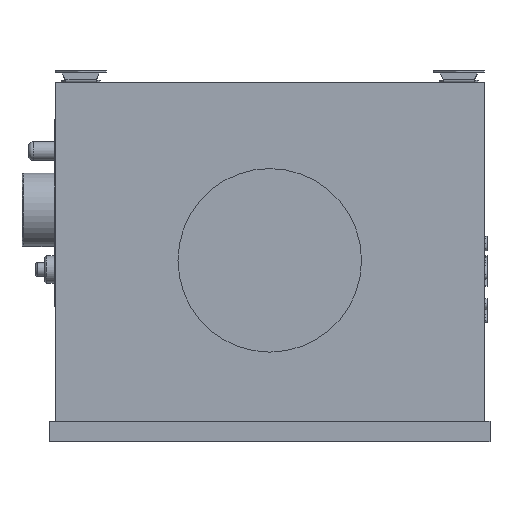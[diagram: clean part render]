
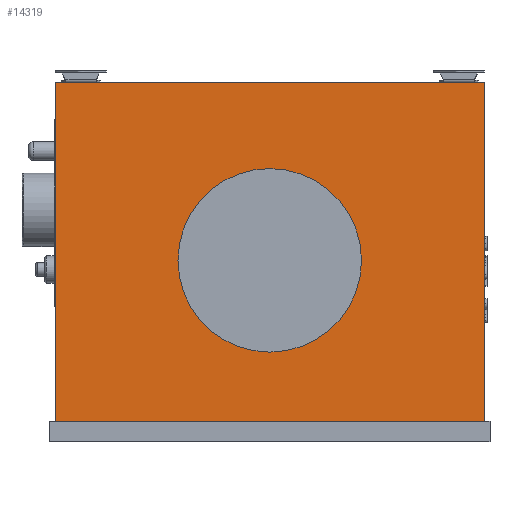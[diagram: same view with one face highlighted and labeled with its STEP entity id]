
A CAD part, left-side view. The second image highlights one B-rep face of the part: STEP entity #14319.
In plain terms, the highlighted planar face has unit normal (-1, 0, 0).
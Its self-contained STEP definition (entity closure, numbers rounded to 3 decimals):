
#177=CIRCLE('',#14886,100.);
#317=FACE_BOUND('',#2251,.T.);
#1438=FACE_OUTER_BOUND('',#2250,.T.);
#2250=EDGE_LOOP('',(#12971,#12972,#12973,#12974));
#2251=EDGE_LOOP('',(#12975));
#3918=LINE('',#25376,#5116);
#4175=LINE('',#30146,#5373);
#4178=LINE('',#30152,#5376);
#4179=LINE('',#30153,#5377);
#5116=VECTOR('',#16270,10.);
#5373=VECTOR('',#17171,10.);
#5376=VECTOR('',#17178,10.);
#5377=VECTOR('',#17179,10.);
#6471=VERTEX_POINT('',#25370);
#6473=VERTEX_POINT('',#25374);
#6763=VERTEX_POINT('',#30132);
#6766=VERTEX_POINT('',#30142);
#6768=VERTEX_POINT('',#30145);
#8398=EDGE_CURVE('',#6471,#6473,#3918,.T.);
#8843=EDGE_CURVE('',#6763,#6763,#177,.T.);
#8848=EDGE_CURVE('',#6766,#6768,#4175,.T.);
#8851=EDGE_CURVE('',#6471,#6766,#4178,.T.);
#8852=EDGE_CURVE('',#6768,#6473,#4179,.T.);
#12971=ORIENTED_EDGE('',*,*,#8851,.F.);
#12972=ORIENTED_EDGE('',*,*,#8398,.T.);
#12973=ORIENTED_EDGE('',*,*,#8852,.F.);
#12974=ORIENTED_EDGE('',*,*,#8848,.F.);
#12975=ORIENTED_EDGE('',*,*,#8843,.T.);
#13341=PLANE('',#14893);
#14319=ADVANCED_FACE('',(#1438,#317),#13341,.T.);
#14886=AXIS2_PLACEMENT_3D('',#30133,#17157,#17158);
#14893=AXIS2_PLACEMENT_3D('',#30151,#17176,#17177);
#16270=DIRECTION('',(0.,0.,1.));
#17157=DIRECTION('center_axis',(1.,0.,0.));
#17158=DIRECTION('ref_axis',(0.,0.,-1.));
#17171=DIRECTION('',(0.,0.,1.));
#17176=DIRECTION('center_axis',(-1.,0.,0.));
#17177=DIRECTION('ref_axis',(0.,-1.,0.));
#17178=DIRECTION('',(0.,1.,0.));
#17179=DIRECTION('',(0.,-1.,0.));
#25370=CARTESIAN_POINT('',(-225.676,-208.361,-173.75));
#25374=CARTESIAN_POINT('',(-225.676,-208.361,195.75));
#25376=CARTESIAN_POINT('',(-225.676,-208.361,-173.75));
#30132=CARTESIAN_POINT('',(-225.676,25.639,101.75));
#30133=CARTESIAN_POINT('Origin',(-225.676,25.639,1.75));
#30142=CARTESIAN_POINT('',(-225.676,259.639,-173.75));
#30145=CARTESIAN_POINT('',(-225.676,259.639,195.75));
#30146=CARTESIAN_POINT('',(-225.676,259.639,-173.75));
#30151=CARTESIAN_POINT('Origin',(-225.676,259.639,-173.75));
#30152=CARTESIAN_POINT('',(-225.676,-208.361,-173.75));
#30153=CARTESIAN_POINT('',(-225.676,259.639,195.75));
